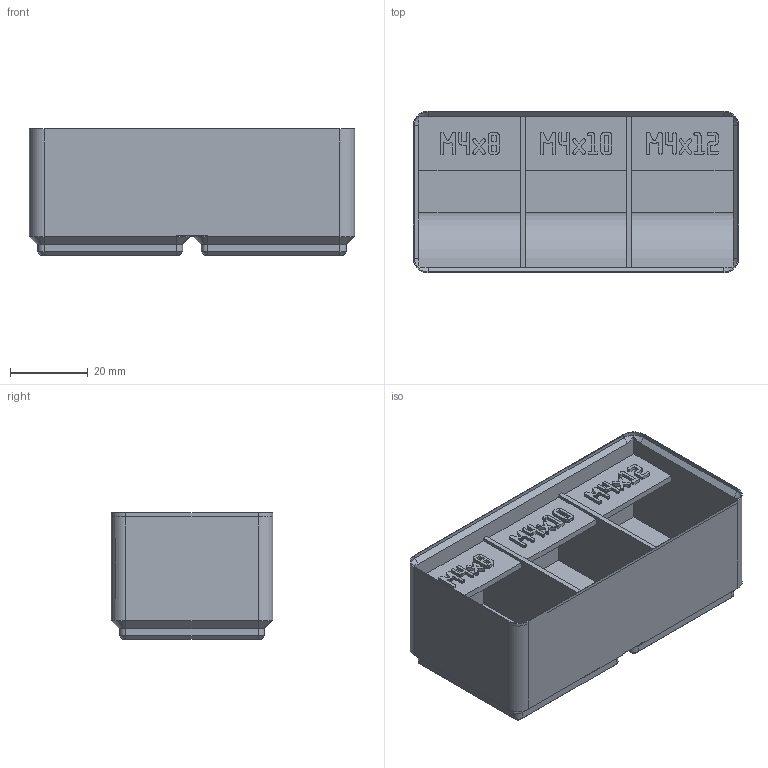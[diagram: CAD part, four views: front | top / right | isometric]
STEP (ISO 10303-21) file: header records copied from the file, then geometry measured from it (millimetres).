
FILE_DESCRIPTION(('Open CASCADE Model'),'2;1');
FILE_NAME('Open CASCADE Shape Model','2026-11-16T17:32:22',('Author'),( 'Open CASCADE'),'Open CASCADE STEP processor 8.0','build123d', 'Unknown');
FILE_SCHEMA(('AUTOMOTIVE_DESIGN { 1 0 10303 214 1 1 1 1 }'));
Products named in the file (1): SOLID
Bounding box: 83.5 x 41.5 x 32.4 mm (x, y, z)
Volume: 49372.8 mm3; surface area: 23486.1 mm2
Topology: 1 solids, 1 shells, 1469 faces, 4285 edges, 2838 vertices
Faces by surface type: plane 1426, cylinder 23, cone 20
Entity records: 100546 total; most frequent: CARTESIAN_POINT 20207, DIRECTION 12997, LINE 9909, VECTOR 9909, ORIENTED_EDGE 8570, PCURVE 8570, DEFINITIONAL_REPRESENTATION 8570, EDGE_CURVE 4285
